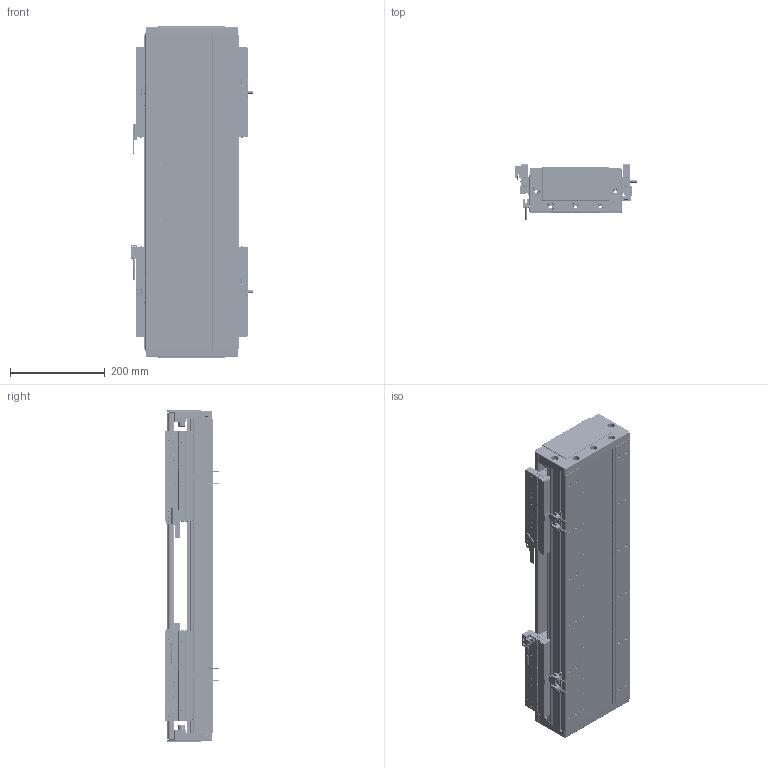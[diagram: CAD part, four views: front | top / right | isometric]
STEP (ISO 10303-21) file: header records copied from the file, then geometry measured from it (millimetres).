
FILE_DESCRIPTION (( 'STEP AP203' ), '1' );
FILE_NAME ('DA-C195-2-C2-T200-C010-0.2 眻盄萇儂.STEP', '2025-08-14T01:44:21', ( '' ), ( '' ), 'SwSTEP 2.0', 'SolidWorks 2019', '' );
FILE_SCHEMA (( 'CONFIG_CONTROL_DESIGN' ));
Length unit declared in the file: millimetre
Products named in the file (16): PM-T45ㄗ侂狟ㄘ; IU-CU195-L 菁釱絳寢; DA195-DG-H-00  端盖（压铸镂空版）; PM-Y65嫖萇羲壽郪璃; 葩璃 DA95-GT-T-00; DA-C195-2-C2-T200-C010-0.2 眻盄萇儂; 66156-0001-005-00 光电感应片(默认); LMT黍杅芛; MS200 棠掑喜S315-T240; DA95-HXJ-00 遣喳砎蝶; CU195-C2賑輸-俋楷; DKW168-HXJ-ZJ-00 笢潔滅袉砎蝶; 66156-0001-003-00 裔啣; IU-CU195-L-00 菁釱(L660); DKW-GYP-ZJ-00 笢潔嫖萇覜茼え; DKW-KGZ-ZJ-00 中间光电开关支架
Assembly tree (28 placements, depth 3):
  DA-C195-2-C2-T200-C010-0.2 眻盄萇儂
    IU-CU195-L 菁釱絳寢
      IU-CU195-L-00 菁釱(L660)
      葩璃 DA95-GT-T-00  x4
    LMT黍杅芛  x2
    MS200 棠掑喜S315-T240
    PM-T45ㄗ侂狟ㄘ  x4
    66156-0001-005-00 光电感应片(默认)  x2
    DA195-DG-H-00  端盖（压铸镂空版）  x2
    DA95-HXJ-00 遣喳砎蝶  x4
    PM-Y65嫖萇羲壽郪璃
    66156-0001-003-00 裔啣
    DKW168-HXJ-ZJ-00 笢潔滅袉砎蝶
    DKW-GYP-ZJ-00 笢潔嫖萇覜茼え
    DKW-KGZ-ZJ-00 中间光电开关支架
    CU195-C2賑輸-俋楷  x2
Bounding box: 258.2 x 115.6 x 700 mm (x, y, z)
Volume: 6720671.6 mm3; surface area: 1827254.2 mm2
Topology: 106 solids, 242 shells, 7678 faces, 19008 edges, 11507 vertices
Faces by surface type: cylinder 3010, plane 2852, cone 946, bspline 718, torus 80, sphere 72
Entity records: 145663 total; most frequent: CARTESIAN_POINT 43604, ORIENTED_EDGE 21018, DIRECTION 20426, EDGE_CURVE 10509, AXIS2_PLACEMENT_3D 7427, VERTEX_POINT 6622, LINE 5572, VECTOR 5572
